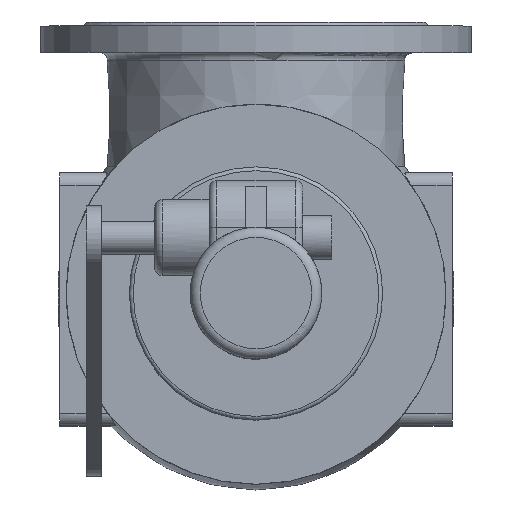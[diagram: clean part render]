
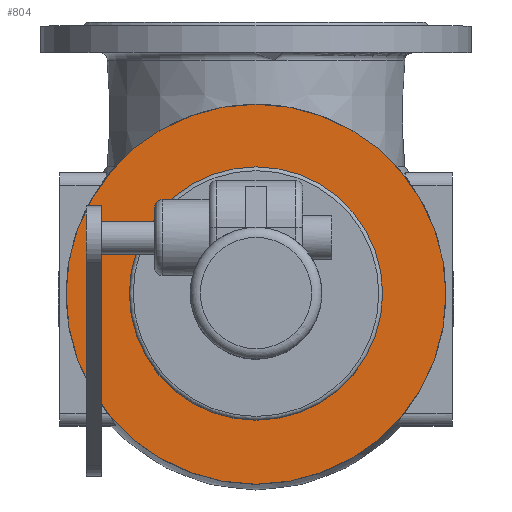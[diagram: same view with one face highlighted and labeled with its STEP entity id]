
A CAD part, top view. The second image highlights one B-rep face of the part: STEP entity #804.
In plain terms, the highlighted planar face has unit normal (0, 0, 1).
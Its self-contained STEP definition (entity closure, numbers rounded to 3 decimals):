
#804=ADVANCED_FACE('',(#2224,#2226),#2228,.T.);
#2224=FACE_BOUND('',#2225,.T.);
#2225=EDGE_LOOP('',(#3315));
#2226=FACE_BOUND('',#2227,.T.);
#2227=EDGE_LOOP('',(#3316,#3317));
#2228=PLANE('',#2229);
#2229=AXIS2_PLACEMENT_3D('',#2230,#2231,#2232);
#2230=CARTESIAN_POINT('',(0.,0.,387.5));
#2231=DIRECTION('',(0.,0.,1.));
#2232=DIRECTION('',(0.,1.,0.));
#3315=ORIENTED_EDGE('',*,*,#3969,.T.);
#3316=ORIENTED_EDGE('',*,*,#3971,.F.);
#3317=ORIENTED_EDGE('',*,*,#3972,.F.);
#3969=EDGE_CURVE('',#4543,#4543,#4544,.T.);
#3971=EDGE_CURVE('',#4547,#4548,#4549,.T.);
#3972=EDGE_CURVE('',#4548,#4547,#4550,.T.);
#4543=VERTEX_POINT('',#6532);
#4544=CIRCLE('',#6533,150.);
#4547=VERTEX_POINT('',#6542);
#4548=VERTEX_POINT('',#6543);
#4549=CIRCLE('',#6544,97.833);
#4550=CIRCLE('',#6548,97.833);
#6532=CARTESIAN_POINT('',(0.,150.,387.5));
#6533=AXIS2_PLACEMENT_3D('',#6534,#6535,#6536);
#6534=CARTESIAN_POINT('',(0.,0.,387.5));
#6535=DIRECTION('',(0.,0.,1.));
#6536=DIRECTION('',(0.,1.,0.));
#6542=CARTESIAN_POINT('',(0.,-97.833,387.5));
#6543=CARTESIAN_POINT('',(0.,97.833,387.5));
#6544=AXIS2_PLACEMENT_3D('',#6545,#6546,#6547);
#6545=CARTESIAN_POINT('',(0.,0.,387.5));
#6546=DIRECTION('',(0.,0.,1.));
#6547=DIRECTION('',(0.,-1.,0.));
#6548=AXIS2_PLACEMENT_3D('',#6549,#6550,#6551);
#6549=CARTESIAN_POINT('',(0.,0.,387.5));
#6550=DIRECTION('',(0.,0.,1.));
#6551=DIRECTION('',(0.,1.,0.));
